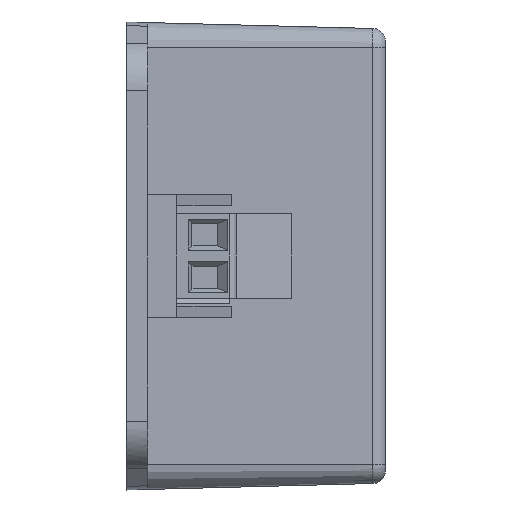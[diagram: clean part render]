
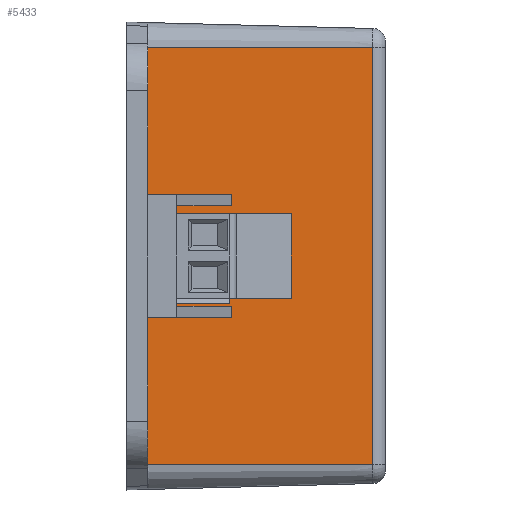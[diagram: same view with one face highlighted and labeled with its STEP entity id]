
A CAD part, left-side view. The second image highlights one B-rep face of the part: STEP entity #5433.
In plain terms, the highlighted planar face has unit normal (-1, -0.026, 0).
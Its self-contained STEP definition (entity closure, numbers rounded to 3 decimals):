
#75 = CARTESIAN_POINT ( 'NONE',  ( -46.721, -3.103, 134.38 ) ) ;
#262 = VECTOR ( 'NONE', #11368, 1000. ) ;
#345 = VERTEX_POINT ( 'NONE', #9852 ) ;
#347 = EDGE_CURVE ( 'NONE', #8710, #29070, #19130, .T. ) ;
#472 = CARTESIAN_POINT ( 'NONE',  ( -46.721, -3.103, 100.53 ) ) ;
#630 = VECTOR ( 'NONE', #17191, 1000. ) ;
#1277 = CARTESIAN_POINT ( 'NONE',  ( -46.719, -3.203, 100.83 ) ) ;
#1302 = AXIS2_PLACEMENT_3D ( 'NONE', #24799, #20583, #9060 ) ;
#1548 = ORIENTED_EDGE ( 'NONE', *, *, #13379, .T. ) ;
#1885 = FACE_OUTER_BOUND ( 'NONE', #7717, .T. ) ;
#2500 = DIRECTION ( 'NONE',  ( 0.026, -1., 0. ) ) ;
#2529 = DIRECTION ( 'NONE',  ( 0., 0., 1. ) ) ;
#2573 = VERTEX_POINT ( 'NONE', #20593 ) ;
#2716 = CARTESIAN_POINT ( 'NONE',  ( -46.549, -9.68, 99.53 ) ) ;
#2896 = CARTESIAN_POINT ( 'NONE',  ( -46.873, 2.697, 100.53 ) ) ;
#3120 = DIRECTION ( 'NONE',  ( 0., 0., 1. ) ) ;
#3271 = LINE ( 'NONE', #12698, #18937 ) ;
#3511 = ORIENTED_EDGE ( 'NONE', *, *, #15104, .F. ) ;
#3572 = EDGE_CURVE ( 'NONE', #7220, #8724, #13980, .T. ) ;
#3843 = EDGE_CURVE ( 'NONE', #10520, #20604, #19591, .T. ) ;
#4009 = DIRECTION ( 'NONE',  ( 0., 0., 1. ) ) ;
#4142 = VECTOR ( 'NONE', #17528, 1000. ) ;
#4581 = DIRECTION ( 'NONE',  ( 0., 0., -1. ) ) ;
#4596 = LINE ( 'NONE', #75, #7340 ) ;
#4637 = VECTOR ( 'NONE', #15325, 1000. ) ;
#5117 = VERTEX_POINT ( 'NONE', #7281 ) ;
#5433 = ADVANCED_FACE ( 'NONE', ( #1885 ), #8757, .T. ) ;
#5667 = EDGE_CURVE ( 'NONE', #21371, #2573, #14876, .T. ) ;
#5898 = VECTOR ( 'NONE', #2529, 1000. ) ;
#6105 = CARTESIAN_POINT ( 'NONE',  ( -46.549, -9.68, 100.83 ) ) ;
#6265 = DIRECTION ( 'NONE',  ( 0., 0., -1. ) ) ;
#6972 = LINE ( 'NONE', #9068, #26068 ) ;
#7220 = VERTEX_POINT ( 'NONE', #472 ) ;
#7281 = CARTESIAN_POINT ( 'NONE',  ( -46.719, -3.203, 112.73 ) ) ;
#7340 = VECTOR ( 'NONE', #11480, 1000. ) ;
#7378 = EDGE_CURVE ( 'NONE', #5117, #10520, #19489, .T. ) ;
#7399 = DIRECTION ( 'NONE',  ( 0.026, -1., 0. ) ) ;
#7717 = EDGE_LOOP ( 'NONE', ( #3511, #15527, #9829, #11597, #21642, #22573, #13863, #19268, #24947, #27960, #8288, #9383, #1548, #26420, #13244, #29291 ) ) ;
#8288 = ORIENTED_EDGE ( 'NONE', *, *, #10987, .T. ) ;
#8397 = CARTESIAN_POINT ( 'NONE',  ( -46.808, 0.197, 134.38 ) ) ;
#8512 = CARTESIAN_POINT ( 'NONE',  ( -46.808, 0.197, 134.38 ) ) ;
#8710 = VERTEX_POINT ( 'NONE', #10929 ) ;
#8724 = VERTEX_POINT ( 'NONE', #28908 ) ;
#8757 = PLANE ( 'NONE',  #1302 ) ;
#9060 = DIRECTION ( 'NONE',  ( 0.026, -1., 0. ) ) ;
#9068 = CARTESIAN_POINT ( 'NONE',  ( -46.719, -3.203, 100.83 ) ) ;
#9383 = ORIENTED_EDGE ( 'NONE', *, *, #5667, .T. ) ;
#9829 = ORIENTED_EDGE ( 'NONE', *, *, #7378, .T. ) ;
#9852 = CARTESIAN_POINT ( 'NONE',  ( -46.549, -9.68, 114.03 ) ) ;
#10520 = VERTEX_POINT ( 'NONE', #15773 ) ;
#10593 = CARTESIAN_POINT ( 'NONE',  ( -46.549, -9.68, 134.38 ) ) ;
#10929 = CARTESIAN_POINT ( 'NONE',  ( -46.808, 0.197, 99.53 ) ) ;
#10987 = EDGE_CURVE ( 'NONE', #8710, #21371, #13307, .T. ) ;
#11368 = DIRECTION ( 'NONE',  ( -0.026, 1., 0. ) ) ;
#11480 = DIRECTION ( 'NONE',  ( 0., 0., -1. ) ) ;
#11597 = ORIENTED_EDGE ( 'NONE', *, *, #3843, .T. ) ;
#12601 = VERTEX_POINT ( 'NONE', #16237 ) ;
#12634 = CARTESIAN_POINT ( 'NONE',  ( -46.549, -9.68, 112.73 ) ) ;
#12698 = CARTESIAN_POINT ( 'NONE',  ( -46.873, 2.697, 114.03 ) ) ;
#12755 = CARTESIAN_POINT ( 'NONE',  ( -46.719, -3.203, 112.73 ) ) ;
#12780 = EDGE_CURVE ( 'NONE', #26037, #5117, #17583, .T. ) ;
#13244 = ORIENTED_EDGE ( 'NONE', *, *, #26173, .T. ) ;
#13307 = LINE ( 'NONE', #8512, #26368 ) ;
#13379 = EDGE_CURVE ( 'NONE', #2573, #26425, #15729, .T. ) ;
#13863 = ORIENTED_EDGE ( 'NONE', *, *, #19790, .F. ) ;
#13980 = LINE ( 'NONE', #2896, #16865 ) ;
#14876 = LINE ( 'NONE', #26573, #4637 ) ;
#14987 = VERTEX_POINT ( 'NONE', #18994 ) ;
#15104 = EDGE_CURVE ( 'NONE', #26037, #345, #26190, .T. ) ;
#15325 = DIRECTION ( 'NONE',  ( 0.026, -1., 0. ) ) ;
#15414 = VERTEX_POINT ( 'NONE', #1277 ) ;
#15527 = ORIENTED_EDGE ( 'NONE', *, *, #12780, .T. ) ;
#15692 = VECTOR ( 'NONE', #28645, 1000. ) ;
#15729 = LINE ( 'NONE', #22612, #5898 ) ;
#15773 = CARTESIAN_POINT ( 'NONE',  ( -46.719, -3.203, 113.03 ) ) ;
#16237 = CARTESIAN_POINT ( 'NONE',  ( -46.808, 0.197, 131.38 ) ) ;
#16284 = CARTESIAN_POINT ( 'NONE',  ( -46.873, 2.697, 99.53 ) ) ;
#16865 = VECTOR ( 'NONE', #7399, 1000. ) ;
#17129 = DIRECTION ( 'NONE',  ( -0.026, 1., 0. ) ) ;
#17191 = DIRECTION ( 'NONE',  ( -0.026, 1., 0. ) ) ;
#17528 = DIRECTION ( 'NONE',  ( 0., 0., -1. ) ) ;
#17583 = LINE ( 'NONE', #12634, #21173 ) ;
#17796 = CARTESIAN_POINT ( 'NONE',  ( -46.549, -9.68, 100.83 ) ) ;
#18093 = LINE ( 'NONE', #17796, #262 ) ;
#18937 = VECTOR ( 'NONE', #19140, 1000. ) ;
#18994 = CARTESIAN_POINT ( 'NONE',  ( -46.808, 0.197, 114.03 ) ) ;
#19130 = LINE ( 'NONE', #16284, #22146 ) ;
#19140 = DIRECTION ( 'NONE',  ( -0.026, 1., 0. ) ) ;
#19268 = ORIENTED_EDGE ( 'NONE', *, *, #20773, .F. ) ;
#19489 = LINE ( 'NONE', #12755, #15692 ) ;
#19586 = VERTEX_POINT ( 'NONE', #6105 ) ;
#19591 = LINE ( 'NONE', #22295, #630 ) ;
#19790 = EDGE_CURVE ( 'NONE', #15414, #8724, #6972, .T. ) ;
#20583 = DIRECTION ( 'NONE',  ( -1., -0.026, 0. ) ) ;
#20593 = CARTESIAN_POINT ( 'NONE',  ( -46.113, -26.342, 82.18 ) ) ;
#20604 = VERTEX_POINT ( 'NONE', #24590 ) ;
#20773 = EDGE_CURVE ( 'NONE', #19586, #15414, #18093, .T. ) ;
#21173 = VECTOR ( 'NONE', #17129, 1000. ) ;
#21371 = VERTEX_POINT ( 'NONE', #27803 ) ;
#21547 = EDGE_CURVE ( 'NONE', #26425, #12601, #26002, .T. ) ;
#21642 = ORIENTED_EDGE ( 'NONE', *, *, #28205, .T. ) ;
#22146 = VECTOR ( 'NONE', #2500, 1000. ) ;
#22295 = CARTESIAN_POINT ( 'NONE',  ( -46.873, 2.697, 113.03 ) ) ;
#22405 = CARTESIAN_POINT ( 'NONE',  ( -46.113, -26.342, 131.38 ) ) ;
#22573 = ORIENTED_EDGE ( 'NONE', *, *, #3572, .T. ) ;
#22612 = CARTESIAN_POINT ( 'NONE',  ( -46.113, -26.342, 134.38 ) ) ;
#23763 = DIRECTION ( 'NONE',  ( -0.026, 1., 0. ) ) ;
#24528 = LINE ( 'NONE', #29322, #27120 ) ;
#24590 = CARTESIAN_POINT ( 'NONE',  ( -46.721, -3.103, 113.03 ) ) ;
#24799 = CARTESIAN_POINT ( 'NONE',  ( -46.873, 2.697, 134.38 ) ) ;
#24810 = EDGE_CURVE ( 'NONE', #345, #14987, #3271, .T. ) ;
#24947 = ORIENTED_EDGE ( 'NONE', *, *, #25018, .F. ) ;
#25018 = EDGE_CURVE ( 'NONE', #29070, #19586, #24528, .T. ) ;
#25920 = CARTESIAN_POINT ( 'NONE',  ( -46.549, -9.68, 112.73 ) ) ;
#26002 = LINE ( 'NONE', #28842, #27095 ) ;
#26037 = VERTEX_POINT ( 'NONE', #25920 ) ;
#26068 = VECTOR ( 'NONE', #4581, 1000. ) ;
#26173 = EDGE_CURVE ( 'NONE', #12601, #14987, #26677, .T. ) ;
#26190 = LINE ( 'NONE', #10593, #26543 ) ;
#26368 = VECTOR ( 'NONE', #6265, 1000. ) ;
#26420 = ORIENTED_EDGE ( 'NONE', *, *, #21547, .T. ) ;
#26425 = VERTEX_POINT ( 'NONE', #22405 ) ;
#26543 = VECTOR ( 'NONE', #3120, 1000. ) ;
#26573 = CARTESIAN_POINT ( 'NONE',  ( -46.873, 2.697, 82.18 ) ) ;
#26677 = LINE ( 'NONE', #8397, #4142 ) ;
#27095 = VECTOR ( 'NONE', #23763, 1000. ) ;
#27120 = VECTOR ( 'NONE', #4009, 1000. ) ;
#27803 = CARTESIAN_POINT ( 'NONE',  ( -46.808, 0.197, 82.18 ) ) ;
#27960 = ORIENTED_EDGE ( 'NONE', *, *, #347, .F. ) ;
#28205 = EDGE_CURVE ( 'NONE', #20604, #7220, #4596, .T. ) ;
#28645 = DIRECTION ( 'NONE',  ( 0., 0., 1. ) ) ;
#28842 = CARTESIAN_POINT ( 'NONE',  ( -46.873, 2.697, 131.38 ) ) ;
#28908 = CARTESIAN_POINT ( 'NONE',  ( -46.719, -3.203, 100.53 ) ) ;
#29070 = VERTEX_POINT ( 'NONE', #2716 ) ;
#29291 = ORIENTED_EDGE ( 'NONE', *, *, #24810, .F. ) ;
#29322 = CARTESIAN_POINT ( 'NONE',  ( -46.549, -9.68, 134.38 ) ) ;
